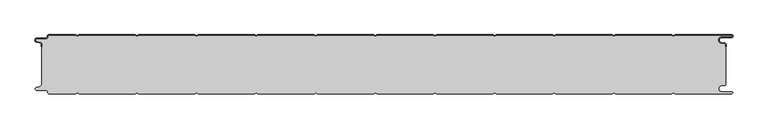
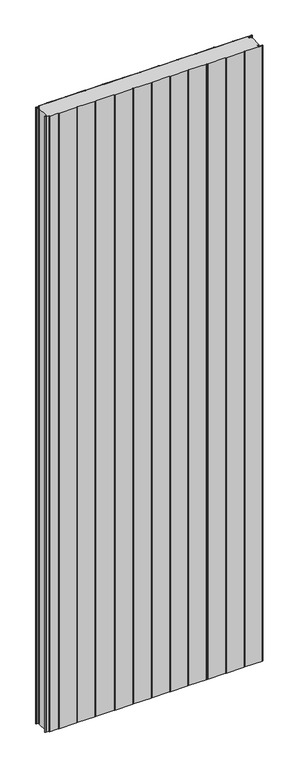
"""IFC4 building model written with IfcOpenShell, lengths in millimetres: plate geometry, PM1_Curtain-Panel_Perfil-Frigorífico : ACH_PM1_Panel-Acústico-Sectorización_100M."""

from ifc_helpers import new_model, si_unit, point, frame, frame_2d, origin, origin_with_axes, place, context, project, spatial, polyline, circle_curve, trimmed, segment, composite_curve, outline, extrude, source, transform, mapped, element, save
from ifc_brep_helpers import plane_surface, cylinder_surface, revolved_surface, advanced_brep


def plate_521b614f(model_context):
    return source(origin(), model_context, "Body", "SolidModel", [
        advanced_brep(
        [(-575.0, -15.878557, 3500.0), (-575.0, -20.0, 3500.0), (-574.2, -20.0, 3500.0), (-574.2, -15.878557, 3500.0), (-576.370137, -13.1503208, 3500.0), (-582.529863, -11.728236, 3500.0), (-581.9, -6.2, 3500.0), (-566.4, -6.2, 3500.0), (-563.6, -3.4, 3500.0), (-563.6, -2.0, 3500.0), (-562.4, -0.8, 3500.0), (-517.3143588, -0.8, 3500.0), (-514.4, -2.482606, 3500.0), (-511.4856412, -0.8, 3500.0), (-417.3143588, -0.8, 3500.0), (-414.4, -2.482606, 3500.0), (-411.4856412, -0.8, 3500.0), (-317.3143588, -0.8, 3500.0), (-314.4, -2.482606, 3500.0), (-311.4856412, -0.8, 3500.0), (-217.3143588, -0.8, 3500.0), (-214.4, -2.482606, 3500.0), (-211.4856412, -0.8, 3500.0), (-117.3143588, -0.8, 3500.0), (-114.4, -2.482606, 3500.0), (-111.4856412, -0.8, 3500.0), (-17.3143588, -0.8, 3500.0), (-14.4, -2.482606, 3500.0), (-11.4856412, -0.8, 3500.0), (82.6856412, -0.8, 3500.0), (85.6, -2.482606, 3500.0), (88.5143588, -0.8, 3500.0), (182.6856412, -0.8, 3500.0), (185.6, -2.482606, 3500.0), (188.5143588, -0.8, 3500.0), (282.6856412, -0.8, 3500.0), (285.6, -2.482606, 3500.0), (288.5143588, -0.8, 3500.0), (382.6856412, -0.8, 3500.0), (385.6, -2.482606, 3500.0), (388.5143588, -0.8, 3500.0), (482.6856412, -0.8, 3500.0), (485.6, -2.482606, 3500.0), (488.5143588, -0.8, 3500.0), (583.1, -0.8, 3500.0), (583.1, -4.2, 3500.0), (566.1, -4.2, 3500.0), (565.2664884, -13.7270771, 3500.0), (571.7125669, -14.8636953, 3500.0), (573.2, -16.6363492, 3500.0), (573.2, -20.0, 3500.0), (574.0, -20.0, 3500.0), (574.0, -16.6363492, 3500.0), (571.8514855, -14.0758491, 3500.0), (565.405407, -12.939231, 3500.0), (566.1, -5.0, 3500.0), (583.1, -5.0, 3500.0), (585.6, -2.5, 3500.0), (583.1, 0.0, 3500.0), (488.2999995, 0.0, 3500.0), (485.6, -1.5588455, 3500.0), (482.9000005, 0.0, 3500.0), (388.2999995, 0.0, 3500.0), (385.6, -1.5588455, 3500.0), (382.9000005, 0.0, 3500.0), (288.2999995, 0.0, 3500.0), (285.6, -1.5588455, 3500.0), (282.9000005, 0.0, 3500.0), (188.2999995, 0.0, 3500.0), (185.6, -1.5588455, 3500.0), (182.9000005, 0.0, 3500.0), (88.2999995, 0.0, 3500.0), (85.6, -1.5588455, 3500.0), (82.9000005, 0.0, 3500.0), (-11.7000005, 0.0, 3500.0), (-14.4, -1.5588455, 3500.0), (-17.0999995, 0.0, 3500.0), (-111.7000005, 0.0, 3500.0), (-114.4, -1.5588455, 3500.0), (-117.0999995, 0.0, 3500.0), (-211.7000005, 0.0, 3500.0), (-214.4, -1.5588455, 3500.0), (-217.0999995, 0.0, 3500.0), (-311.7000005, 0.0, 3500.0), (-314.4, -1.5588455, 3500.0), (-317.0999995, 0.0, 3500.0), (-411.7000005, 0.0, 3500.0), (-414.4, -1.5588455, 3500.0), (-417.0999995, 0.0, 3500.0), (-511.7000005, 0.0, 3500.0), (-514.4, -1.5588455, 3500.0), (-517.0999995, 0.0, 3500.0), (-562.4, 0.0, 3500.0), (-564.4, -2.0, 3500.0), (-564.4, -3.4, 3500.0), (-566.4, -5.4, 3500.0), (-581.9, -5.4, 3500.0), (-582.7098239, -12.5077322, 3500.0), (-576.5500979, -13.929817, 3500.0), (-575.0, -15.878557, 0.0), (-576.5500978, -13.9298169, 0.0), (-582.7098239, -12.507732, 0.0), (-581.9, -5.4, 0.0), (-566.4, -5.4, 0.0), (-564.4, -3.4, 0.0), (-564.4, -2.0, 0.0), (-562.4, 0.0, 0.0), (-517.0999995, 0.0, 0.0), (-514.4, -1.5588455, 0.0), (-511.7000005, 0.0, 0.0), (-417.0999995, 0.0, 0.0), (-414.4, -1.5588455, 0.0), (-411.7000005, 0.0, 0.0), (-317.0999995, 0.0, 0.0), (-314.4, -1.5588455, 0.0), (-311.7000005, 0.0, 0.0), (-217.0999995, 0.0, 0.0), (-214.4, -1.5588455, 0.0), (-211.7000005, 0.0, 0.0), (-117.0999995, 0.0, 0.0), (-114.4, -1.5588455, 0.0), (-111.7000005, 0.0, 0.0), (-17.0999995, 0.0, 0.0), (-14.4, -1.5588455, 0.0), (-11.7000005, 0.0, 0.0), (82.9000005, 0.0, 0.0), (85.6, -1.5588455, 0.0), (88.2999995, 0.0, 0.0), (182.9000005, 0.0, 0.0), (185.6, -1.5588455, 0.0), (188.2999995, 0.0, 0.0), (282.9000005, 0.0, 0.0), (285.6, -1.5588455, 0.0), (288.2999995, 0.0, 0.0), (382.9000005, 0.0, 0.0), (385.6, -1.5588455, 0.0), (388.2999995, 0.0, 0.0), (482.9000005, 0.0, 0.0), (485.6, -1.5588455, 0.0), (488.2999995, 0.0, 0.0), (583.1, 0.0, 0.0), (585.6, -2.5, 0.0), (583.1, -5.0, 0.0), (566.1, -5.0, 0.0), (565.405407, -12.939231, 0.0), (571.8514855, -14.0758491, 0.0), (574.0, -16.6363492, 0.0), (574.0, -20.0, 0.0), (573.2, -20.0, 0.0), (573.2, -16.6363492, 0.0), (571.7125669, -14.8636953, 0.0), (565.2664884, -13.7270772, 0.0), (566.1, -4.2, 0.0), (583.1, -4.2, 0.0), (583.1, -0.8, 0.0), (488.5143588, -0.8, 0.0), (485.6, -2.482606, 0.0), (482.6856412, -0.8, 0.0), (388.5143588, -0.8, 0.0), (385.6, -2.482606, 0.0), (382.6856412, -0.8, 0.0), (288.5143588, -0.8, 0.0), (285.6, -2.482606, 0.0), (282.6856412, -0.8, 0.0), (188.5143588, -0.8, 0.0), (185.6, -2.482606, 0.0), (182.6856412, -0.8, 0.0), (88.5143588, -0.8, 0.0), (85.6, -2.482606, 0.0), (82.6856412, -0.8, 0.0), (-11.4856412, -0.8, 0.0), (-14.4, -2.482606, 0.0), (-17.3143588, -0.8, 0.0), (-111.4856412, -0.8, 0.0), (-114.4, -2.482606, 0.0), (-117.3143588, -0.8, 0.0), (-211.4856412, -0.8, 0.0), (-214.4, -2.482606, 0.0), (-217.3143588, -0.8, 0.0), (-311.4856412, -0.8, 0.0), (-314.4, -2.482606, 0.0), (-317.3143588, -0.8, 0.0), (-411.4856412, -0.8, 0.0), (-414.4, -2.482606, 0.0), (-417.3143588, -0.8, 0.0), (-511.4856412, -0.8, 0.0), (-514.4, -2.482606, 0.0), (-517.3143588, -0.8, 0.0), (-562.4, -0.8, 0.0), (-563.6, -2.0, 0.0), (-563.6, -3.4, 0.0), (-566.4, -6.2, 0.0), (-581.9, -6.2, 0.0), (-582.529863, -11.7282362, 0.0), (-576.370137, -13.150321, 0.0), (-574.2, -15.878557, 0.0), (-574.2, -20.0, 0.0), (-575.0, -20.0, 0.0)],
        [
            (0, 1),
            (1, 2),
            (2, 3),
            (3, 4, circle_curve(frame((-577.0, -15.878557, 3500.0), z_axis=(0.0, 0.0, 1.0), x_axis=(1.0, 0.0, 0.0)), 2.8)),
            (4, 5),
            (5, 6, circle_curve(frame((-581.9, -9.0, 3500.0), z_axis=(0.0, 0.0, -1.0), x_axis=(1.0, 0.0, 0.0)), 2.8)),
            (6, 7),
            (7, 8, circle_curve(frame((-566.4, -3.4, 3500.0), z_axis=(0.0, 0.0, 1.0), x_axis=(1.0, 0.0, 0.0)), 2.8)),
            (8, 9),
            (9, 10, circle_curve(frame((-562.4, -2.0, 3500.0), z_axis=(0.0, 0.0, -1.0), x_axis=(1.0, 0.0, 0.0)), 1.2)),
            (10, 11),
            (11, 12),
            (12, 13),
            (13, 14),
            (14, 15),
            (15, 16),
            (16, 17),
            (17, 18),
            (18, 19),
            (19, 20),
            (20, 21),
            (21, 22),
            (22, 23),
            (23, 24),
            (24, 25),
            (25, 26),
            (26, 27),
            (27, 28),
            (28, 29),
            (29, 30),
            (30, 31),
            (31, 32),
            (32, 33),
            (33, 34),
            (34, 35),
            (35, 36),
            (36, 37),
            (37, 38),
            (38, 39),
            (39, 40),
            (40, 41),
            (41, 42),
            (42, 43),
            (43, 44),
            (44, 45, circle_curve(frame((583.1, -2.5, 3500.0), z_axis=(0.0, 0.0, -1.0), x_axis=(1.0, 0.0, 0.0)), 1.7)),
            (45, 46),
            (46, 47, circle_curve(frame((566.1, -9.0, 3500.0), z_axis=(0.0, 0.0, 1.0), x_axis=(1.0, 0.0, 0.0)), 4.8)),
            (47, 48),
            (48, 49, circle_curve(frame((571.4, -16.6363492, 3500.0), z_axis=(0.0, 0.0, -1.0), x_axis=(1.0, 0.0, 0.0)), 1.8)),
            (49, 50),
            (50, 51),
            (51, 52),
            (52, 53, circle_curve(frame((571.4, -16.6363492, 3500.0), z_axis=(0.0, 0.0, 1.0), x_axis=(1.0, 0.0, 0.0)), 2.6)),
            (53, 54),
            (54, 55, circle_curve(frame((566.1, -9.0, 3500.0), z_axis=(0.0, 0.0, -1.0), x_axis=(1.0, 0.0, 0.0)), 4.0)),
            (55, 56),
            (56, 57, circle_curve(frame((583.1, -2.5, 3500.0), z_axis=(0.0, 0.0, 1.0), x_axis=(1.0, 0.0, 0.0)), 2.5)),
            (57, 58, circle_curve(frame((583.1, -2.5, 3500.0), z_axis=(0.0, 0.0, 1.0), x_axis=(1.0, 0.0, 0.0)), 2.5)),
            (58, 59),
            (59, 60),
            (60, 61),
            (61, 62),
            (62, 63),
            (63, 64),
            (64, 65),
            (65, 66),
            (66, 67),
            (67, 68),
            (68, 69),
            (69, 70),
            (70, 71),
            (71, 72),
            (72, 73),
            (73, 74),
            (74, 75),
            (75, 76),
            (76, 77),
            (77, 78),
            (78, 79),
            (79, 80),
            (80, 81),
            (81, 82),
            (82, 83),
            (83, 84),
            (84, 85),
            (85, 86),
            (86, 87),
            (87, 88),
            (88, 89),
            (89, 90),
            (90, 91),
            (91, 92),
            (92, 93, circle_curve(frame((-562.4, -2.0, 3500.0), z_axis=(0.0, 0.0, 1.0), x_axis=(1.0, 0.0, 0.0)), 2.0)),
            (93, 94),
            (94, 95, circle_curve(frame((-566.4, -3.4, 3500.0), z_axis=(0.0, 0.0, -1.0), x_axis=(1.0, 0.0, 0.0)), 2.0)),
            (95, 96),
            (96, 97, circle_curve(frame((-581.9, -9.0, 3500.0), z_axis=(0.0, 0.0, 1.0), x_axis=(1.0, 0.0, 0.0)), 3.6)),
            (97, 98),
            (98, 0, circle_curve(frame((-577.0, -15.878557, 3500.0), z_axis=(0.0, 0.0, -1.0), x_axis=(1.0, 0.0, 0.0)), 2.0)),
            (99, 100, circle_curve(frame((-577.0, -15.878557, 0.0), z_axis=(0.0, 0.0, 1.0), x_axis=(1.0, 0.0, 0.0)), 2.0)),
            (100, 101),
            (101, 102, circle_curve(frame((-581.9, -9.0, 0.0), z_axis=(0.0, 0.0, -1.0), x_axis=(1.0, 0.0, 0.0)), 3.6)),
            (102, 103),
            (103, 104, circle_curve(frame((-566.4, -3.4, 0.0), z_axis=(0.0, 0.0, 1.0), x_axis=(1.0, 0.0, 0.0)), 2.0)),
            (104, 105),
            (105, 106, circle_curve(frame((-562.4, -2.0, 0.0), z_axis=(0.0, 0.0, -1.0), x_axis=(1.0, 0.0, 0.0)), 2.0)),
            (106, 107),
            (107, 108),
            (108, 109),
            (109, 110),
            (110, 111),
            (111, 112),
            (112, 113),
            (113, 114),
            (114, 115),
            (115, 116),
            (116, 117),
            (117, 118),
            (118, 119),
            (119, 120),
            (120, 121),
            (121, 122),
            (122, 123),
            (123, 124),
            (124, 125),
            (125, 126),
            (126, 127),
            (127, 128),
            (128, 129),
            (129, 130),
            (130, 131),
            (131, 132),
            (132, 133),
            (133, 134),
            (134, 135),
            (135, 136),
            (136, 137),
            (137, 138),
            (138, 139),
            (139, 140),
            (140, 141, circle_curve(frame((583.1, -2.5, 0.0), z_axis=(0.0, 0.0, -1.0), x_axis=(1.0, 0.0, 0.0)), 2.5)),
            (141, 142, circle_curve(frame((583.1, -2.5, 0.0), z_axis=(0.0, 0.0, -1.0), x_axis=(1.0, 0.0, 0.0)), 2.5)),
            (142, 143),
            (143, 144, circle_curve(frame((566.1, -9.0, 0.0), z_axis=(0.0, 0.0, 1.0), x_axis=(1.0, 0.0, 0.0)), 4.0)),
            (144, 145),
            (145, 146, circle_curve(frame((571.4, -16.6363492, 0.0), z_axis=(0.0, 0.0, -1.0), x_axis=(1.0, 0.0, 0.0)), 2.6)),
            (146, 147),
            (147, 148),
            (148, 149),
            (149, 150, circle_curve(frame((571.4, -16.6363492, 0.0), z_axis=(0.0, 0.0, 1.0), x_axis=(1.0, 0.0, 0.0)), 1.8)),
            (150, 151),
            (151, 152, circle_curve(frame((566.1, -9.0, 0.0), z_axis=(0.0, 0.0, -1.0), x_axis=(1.0, 0.0, 0.0)), 4.8)),
            (152, 153),
            (153, 154, circle_curve(frame((583.1, -2.5, 0.0), z_axis=(0.0, 0.0, 1.0), x_axis=(1.0, 0.0, 0.0)), 1.7)),
            (154, 155),
            (155, 156),
            (156, 157),
            (157, 158),
            (158, 159),
            (159, 160),
            (160, 161),
            (161, 162),
            (162, 163),
            (163, 164),
            (164, 165),
            (165, 166),
            (166, 167),
            (167, 168),
            (168, 169),
            (169, 170),
            (170, 171),
            (171, 172),
            (172, 173),
            (173, 174),
            (174, 175),
            (175, 176),
            (176, 177),
            (177, 178),
            (178, 179),
            (179, 180),
            (180, 181),
            (181, 182),
            (182, 183),
            (183, 184),
            (184, 185),
            (185, 186),
            (186, 187),
            (187, 188),
            (188, 189, circle_curve(frame((-562.4, -2.0, 0.0), z_axis=(0.0, 0.0, 1.0), x_axis=(1.0, 0.0, 0.0)), 1.2)),
            (189, 190),
            (190, 191, circle_curve(frame((-566.4, -3.4, 0.0), z_axis=(0.0, 0.0, -1.0), x_axis=(1.0, 0.0, 0.0)), 2.8)),
            (191, 192),
            (192, 193, circle_curve(frame((-581.9, -9.0, 0.0), z_axis=(0.0, 0.0, 1.0), x_axis=(1.0, 0.0, 0.0)), 2.8)),
            (193, 194),
            (194, 195, circle_curve(frame((-577.0, -15.878557, 0.0), z_axis=(0.0, 0.0, -1.0), x_axis=(1.0, 0.0, 0.0)), 2.8)),
            (195, 196),
            (196, 197),
            (197, 99),
            (0, 99),
            (197, 1),
            (196, 2),
            (195, 3),
            (194, 4),
            (193, 5),
            (192, 6),
            (191, 7),
            (190, 8),
            (189, 9),
            (188, 10),
            (187, 11),
            (186, 12),
            (185, 13),
            (184, 14),
            (183, 15),
            (182, 16),
            (181, 17),
            (180, 18),
            (179, 19),
            (178, 20),
            (177, 21),
            (176, 22),
            (175, 23),
            (174, 24),
            (173, 25),
            (172, 26),
            (171, 27),
            (170, 28),
            (169, 29),
            (168, 30),
            (167, 31),
            (166, 32),
            (165, 33),
            (164, 34),
            (163, 35),
            (162, 36),
            (161, 37),
            (160, 38),
            (159, 39),
            (158, 40),
            (157, 41),
            (156, 42),
            (155, 43),
            (154, 44),
            (153, 45),
            (152, 46),
            (151, 47),
            (150, 48),
            (149, 49),
            (148, 50),
            (147, 51),
            (146, 52),
            (145, 53),
            (144, 54),
            (143, 55),
            (142, 56),
            (140, 58),
            (139, 59),
            (138, 60),
            (137, 61),
            (136, 62),
            (135, 63),
            (134, 64),
            (133, 65),
            (132, 66),
            (131, 67),
            (130, 68),
            (129, 69),
            (128, 70),
            (127, 71),
            (126, 72),
            (125, 73),
            (124, 74),
            (123, 75),
            (122, 76),
            (121, 77),
            (120, 78),
            (119, 79),
            (118, 80),
            (117, 81),
            (116, 82),
            (115, 83),
            (114, 84),
            (113, 85),
            (112, 86),
            (111, 87),
            (110, 88),
            (109, 89),
            (108, 90),
            (107, 91),
            (106, 92),
            (105, 93),
            (104, 94),
            (103, 95),
            (102, 96),
            (101, 97),
            (100, 98),
        ],
        [
            plane_surface(frame((-575.0, 0.0, 3500.0), z_axis=(0.0, 0.0, 1.0), x_axis=(0.0, 1.0, 0.0))),
            plane_surface(frame((-575.0, 0.0, 0.0), z_axis=(0.0, 0.0, -1.0), x_axis=(0.0, 1.0, 0.0))),
            plane_surface(frame((-575.0, -15.878557, 3500.0), z_axis=(-1.0, 0.0, 0.0), x_axis=(0.0, 0.0, -1.0))),
            plane_surface(frame((-575.0, -20.0, 3500.0), z_axis=(0.0, -1.0, 0.0), x_axis=(0.0, 0.0, -1.0))),
            plane_surface(frame((-574.2, -20.0, 3500.0), z_axis=(1.0, 0.0, 0.0), x_axis=(0.0, 0.0, -1.0))),
            cylinder_surface(frame((-577.0, -15.878557, 3500.0), z_axis=(0.0, 0.0, 1.0), x_axis=(1.0, 0.0, 0.0)), 2.8),
            plane_surface(frame((-576.370137, -13.150321, 3500.0), z_axis=(0.22495108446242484, 0.9743700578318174, 0.0), x_axis=(0.0, 0.0, -1.0))),
            revolved_surface(polyline([(-579.1, -9.0, 0.0), (-579.1, -9.0, 3500.0)]), (-581.9, -9.0, 3500.0), (0.0, 0.0, -1.0)),
            plane_surface(frame((-581.9, -6.2, 3500.0), z_axis=(0.0, -1.0, 0.0), x_axis=(0.0, 0.0, -1.0))),
            cylinder_surface(frame((-566.4, -3.4, 3500.0), z_axis=(0.0, 0.0, 1.0), x_axis=(1.0, 0.0, 0.0)), 2.8),
            plane_surface(frame((-563.6, -3.4, 3500.0), z_axis=(1.0, 0.0, 0.0), x_axis=(0.0, 0.0, -1.0))),
            revolved_surface(polyline([(-561.1999999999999, -2.0, 0.0), (-561.1999999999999, -2.0, 3500.0)]), (-562.4, -2.0, 3500.0), (0.0, 0.0, -1.0)),
            plane_surface(frame((-562.4, -0.8, 3500.0), z_axis=(0.0, -1.0, 0.0), x_axis=(0.0, 0.0, -1.0))),
            plane_surface(frame((-517.3143588, -0.8, 3500.0), z_axis=(-0.5000000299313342, -0.8660253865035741, 0.0), x_axis=(0.0, 0.0, -1.0))),
            plane_surface(frame((-514.4, -2.482606, 3500.0), z_axis=(0.5000000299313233, -0.8660253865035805, 0.0), x_axis=(0.0, 0.0, -1.0))),
            plane_surface(frame((-511.4856412, -0.8, 3500.0), z_axis=(0.0, -1.0, 0.0), x_axis=(0.0, 0.0, -1.0))),
            plane_surface(frame((-417.3143588, -0.8, 3500.0), z_axis=(-0.5000000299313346, -0.8660253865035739, 0.0), x_axis=(0.0, 0.0, -1.0))),
            plane_surface(frame((-414.4, -2.482606, 3500.0), z_axis=(0.5000000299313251, -0.8660253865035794, 0.0), x_axis=(0.0, 0.0, -1.0))),
            plane_surface(frame((-411.4856412, -0.8, 3500.0), z_axis=(0.0, -1.0, 0.0), x_axis=(0.0, 0.0, -1.0))),
            plane_surface(frame((-317.3143588, -0.8, 3500.0), z_axis=(-0.5000000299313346, -0.866025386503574, 0.0), x_axis=(0.0, 0.0, -1.0))),
            plane_surface(frame((-314.4, -2.482606, 3500.0), z_axis=(0.5000000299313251, -0.8660253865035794, 0.0), x_axis=(0.0, 0.0, -1.0))),
            plane_surface(frame((-311.4856412, -0.8, 3500.0), z_axis=(0.0, -1.0, 0.0), x_axis=(0.0, 0.0, -1.0))),
            plane_surface(frame((-217.3143588, -0.8, 3500.0), z_axis=(-0.5000000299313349, -0.8660253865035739, 0.0), x_axis=(0.0, 0.0, -1.0))),
            plane_surface(frame((-214.4, -2.482606, 3500.0), z_axis=(0.5000000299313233, -0.8660253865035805, 0.0), x_axis=(0.0, 0.0, -1.0))),
            plane_surface(frame((-211.4856412, -0.8, 3500.0), z_axis=(0.0, -1.0, 0.0), x_axis=(0.0, 0.0, -1.0))),
            plane_surface(frame((-117.3143588, -0.8, 3500.0), z_axis=(-0.5000000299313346, -0.866025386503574, 0.0), x_axis=(0.0, 0.0, -1.0))),
            plane_surface(frame((-114.4, -2.482606, 3500.0), z_axis=(0.5000000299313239, -0.8660253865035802, 0.0), x_axis=(0.0, 0.0, -1.0))),
            plane_surface(frame((-111.4856412, -0.8, 3500.0), z_axis=(0.0, -1.0, 0.0), x_axis=(0.0, 0.0, -1.0))),
            plane_surface(frame((-17.3143588, -0.8, 3500.0), z_axis=(-0.5000000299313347, -0.8660253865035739, 0.0), x_axis=(0.0, 0.0, -1.0))),
            plane_surface(frame((-14.4, -2.482606, 3500.0), z_axis=(0.5000000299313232, -0.8660253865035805, 0.0), x_axis=(0.0, 0.0, -1.0))),
            plane_surface(frame((-11.4856412, -0.8, 3500.0), z_axis=(0.0, -1.0, 0.0), x_axis=(0.0, 0.0, -1.0))),
            plane_surface(frame((82.6856412, -0.8, 3500.0), z_axis=(-0.5000000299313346, -0.866025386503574, 0.0), x_axis=(0.0, 0.0, -1.0))),
            plane_surface(frame((85.6, -2.482606, 3500.0), z_axis=(0.5000000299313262, -0.8660253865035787, 0.0), x_axis=(0.0, 0.0, -1.0))),
            plane_surface(frame((88.5143588, -0.8, 3500.0), z_axis=(0.0, -1.0, 0.0), x_axis=(0.0, 0.0, -1.0))),
            plane_surface(frame((182.6856412, -0.8, 3500.0), z_axis=(-0.5000000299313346, -0.8660253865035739, 0.0), x_axis=(0.0, 0.0, -1.0))),
            plane_surface(frame((185.6, -2.482606, 3500.0), z_axis=(0.5000000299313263, -0.8660253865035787, 0.0), x_axis=(0.0, 0.0, -1.0))),
            plane_surface(frame((188.5143588, -0.8, 3500.0), z_axis=(0.0, -1.0, 0.0), x_axis=(0.0, 0.0, -1.0))),
            plane_surface(frame((282.6856412, -0.8, 3500.0), z_axis=(-0.5000000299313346, -0.8660253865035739, 0.0), x_axis=(0.0, 0.0, -1.0))),
            plane_surface(frame((285.6, -2.482606, 3500.0), z_axis=(0.5000000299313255, -0.8660253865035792, 0.0), x_axis=(0.0, 0.0, -1.0))),
            plane_surface(frame((288.5143588, -0.8, 3500.0), z_axis=(0.0, -1.0, 0.0), x_axis=(0.0, 0.0, -1.0))),
            plane_surface(frame((382.6856412, -0.8, 3500.0), z_axis=(-0.5000000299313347, -0.8660253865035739, 0.0), x_axis=(0.0, 0.0, -1.0))),
            plane_surface(frame((385.6, -2.482606, 3500.0), z_axis=(0.5000000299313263, -0.8660253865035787, 0.0), x_axis=(0.0, 0.0, -1.0))),
            plane_surface(frame((388.5143588, -0.8, 3500.0), z_axis=(0.0, -1.0, 0.0), x_axis=(0.0, 0.0, -1.0))),
            plane_surface(frame((482.6856412, -0.8, 3500.0), z_axis=(-0.5000000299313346, -0.866025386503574, 0.0), x_axis=(0.0, 0.0, -1.0))),
            plane_surface(frame((485.6, -2.482606, 3500.0), z_axis=(0.5000000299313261, -0.8660253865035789, 0.0), x_axis=(0.0, 0.0, -1.0))),
            plane_surface(frame((535.6, -0.8, 3500.0), z_axis=(0.0, -1.0, 0.0), x_axis=(0.0, 0.0, -1.0))),
            revolved_surface(polyline([(584.8000000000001, -2.5, 0.0), (584.8000000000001, -2.5, 3500.0)]), (583.1, -2.5, 3500.0), (0.0, 0.0, -1.0)),
            plane_surface(frame((583.1, -4.2, 3500.0), z_axis=(0.0, 1.0, 0.0), x_axis=(0.0, 0.0, -1.0))),
            cylinder_surface(frame((566.1, -9.0, 3500.0), z_axis=(0.0, 0.0, 1.0), x_axis=(1.0, 0.0, 0.0)), 4.8),
            plane_surface(frame((565.2664884, -13.7270772, 3500.0), z_axis=(-0.17364825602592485, -0.9848077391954, 0.0), x_axis=(0.0, 0.0, -1.0))),
            revolved_surface(polyline([(573.1999999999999, -16.6363492, 0.0), (573.1999999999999, -16.6363492, 3500.0)]), (571.4, -16.6363492, 3500.0), (0.0, 0.0, -1.0)),
            plane_surface(frame((573.2, -16.6363492, 3500.0), z_axis=(-1.0, 0.0, 0.0), x_axis=(0.0, 0.0, -1.0))),
            plane_surface(frame((573.2, -20.0, 3500.0), z_axis=(0.0, -1.0, 0.0), x_axis=(0.0, 0.0, -1.0))),
            plane_surface(frame((574.0, -20.0, 3500.0), z_axis=(1.0, 0.0, 0.0), x_axis=(0.0, 0.0, -1.0))),
            cylinder_surface(frame((571.4, -16.6363492, 3500.0), z_axis=(0.0, 0.0, 1.0), x_axis=(1.0, 0.0, 0.0)), 2.6),
            plane_surface(frame((571.8514855, -14.0758491, 3500.0), z_axis=(0.1736482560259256, 0.9848077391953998, 0.0), x_axis=(0.0, 0.0, -1.0))),
            revolved_surface(polyline([(570.1, -9.0, 0.0), (570.1, -9.0, 3500.0)]), (566.1, -9.0, 3500.0), (0.0, 0.0, -1.0)),
            plane_surface(frame((566.1, -5.0, 3500.0), z_axis=(0.0, -1.0, 0.0), x_axis=(0.0, 0.0, -1.0))),
            cylinder_surface(frame((583.1, -2.5, 3500.0), z_axis=(0.0, 0.0, 1.0), x_axis=(1.0, 0.0, 0.0)), 2.5),
            plane_surface(frame((535.6, 0.0, 3500.0), z_axis=(0.0, 1.0, 0.0), x_axis=(0.0, 0.0, -1.0))),
            plane_surface(frame((488.2999995, 0.0, 3500.0), z_axis=(-0.5000000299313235, 0.8660253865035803, 0.0), x_axis=(0.0, 0.0, -1.0))),
            plane_surface(frame((485.6, -1.5588455, 3500.0), z_axis=(0.5000000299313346, 0.8660253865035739, 0.0), x_axis=(0.0, 0.0, -1.0))),
            plane_surface(frame((482.9000005, 0.0, 3500.0), z_axis=(0.0, 1.0, 0.0), x_axis=(0.0, 0.0, -1.0))),
            plane_surface(frame((388.2999995, 0.0, 3500.0), z_axis=(-0.5000000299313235, 0.8660253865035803, 0.0), x_axis=(0.0, 0.0, -1.0))),
            plane_surface(frame((385.6, -1.5588455, 3500.0), z_axis=(0.5000000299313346, 0.8660253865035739, 0.0), x_axis=(0.0, 0.0, -1.0))),
            plane_surface(frame((382.9000005, 0.0, 3500.0), z_axis=(0.0, 1.0, 0.0), x_axis=(0.0, 0.0, -1.0))),
            plane_surface(frame((288.2999995, 0.0, 3500.0), z_axis=(-0.5000000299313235, 0.8660253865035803, 0.0), x_axis=(0.0, 0.0, -1.0))),
            plane_surface(frame((285.6, -1.5588455, 3500.0), z_axis=(0.5000000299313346, 0.8660253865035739, 0.0), x_axis=(0.0, 0.0, -1.0))),
            plane_surface(frame((282.9000005, 0.0, 3500.0), z_axis=(0.0, 1.0, 0.0), x_axis=(0.0, 0.0, -1.0))),
            plane_surface(frame((188.2999995, 0.0, 3500.0), z_axis=(-0.5000000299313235, 0.8660253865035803, 0.0), x_axis=(0.0, 0.0, -1.0))),
            plane_surface(frame((185.6, -1.5588455, 3500.0), z_axis=(0.5000000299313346, 0.8660253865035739, 0.0), x_axis=(0.0, 0.0, -1.0))),
            plane_surface(frame((182.9000005, 0.0, 3500.0), z_axis=(0.0, 1.0, 0.0), x_axis=(0.0, 0.0, -1.0))),
            plane_surface(frame((88.2999995, 0.0, 3500.0), z_axis=(-0.5000000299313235, 0.8660253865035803, 0.0), x_axis=(0.0, 0.0, -1.0))),
            plane_surface(frame((85.6, -1.5588455, 3500.0), z_axis=(0.5000000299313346, 0.8660253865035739, 0.0), x_axis=(0.0, 0.0, -1.0))),
            plane_surface(frame((82.9000005, 0.0, 3500.0), z_axis=(0.0, 1.0, 0.0), x_axis=(0.0, 0.0, -1.0))),
            plane_surface(frame((-11.7000005, 0.0, 3500.0), z_axis=(-0.5000000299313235, 0.8660253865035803, 0.0), x_axis=(0.0, 0.0, -1.0))),
            plane_surface(frame((-14.4, -1.5588455, 3500.0), z_axis=(0.5000000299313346, 0.8660253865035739, 0.0), x_axis=(0.0, 0.0, -1.0))),
            plane_surface(frame((-17.0999995, 0.0, 3500.0), z_axis=(0.0, 1.0, 0.0), x_axis=(0.0, 0.0, -1.0))),
            plane_surface(frame((-111.7000005, 0.0, 3500.0), z_axis=(-0.5000000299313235, 0.8660253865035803, 0.0), x_axis=(0.0, 0.0, -1.0))),
            plane_surface(frame((-114.4, -1.5588455, 3500.0), z_axis=(0.5000000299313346, 0.8660253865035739, 0.0), x_axis=(0.0, 0.0, -1.0))),
            plane_surface(frame((-117.0999995, 0.0, 3500.0), z_axis=(0.0, 1.0, 0.0), x_axis=(0.0, 0.0, -1.0))),
            plane_surface(frame((-211.7000005, 0.0, 3500.0), z_axis=(-0.5000000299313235, 0.8660253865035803, 0.0), x_axis=(0.0, 0.0, -1.0))),
            plane_surface(frame((-214.4, -1.5588455, 3500.0), z_axis=(0.5000000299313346, 0.8660253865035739, 0.0), x_axis=(0.0, 0.0, -1.0))),
            plane_surface(frame((-217.0999995, 0.0, 3500.0), z_axis=(0.0, 1.0, 0.0), x_axis=(0.0, 0.0, -1.0))),
            plane_surface(frame((-311.7000005, 0.0, 3500.0), z_axis=(-0.5000000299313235, 0.8660253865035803, 0.0), x_axis=(0.0, 0.0, -1.0))),
            plane_surface(frame((-314.4, -1.5588455, 3500.0), z_axis=(0.5000000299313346, 0.8660253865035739, 0.0), x_axis=(0.0, 0.0, -1.0))),
            plane_surface(frame((-317.0999995, 0.0, 3500.0), z_axis=(0.0, 1.0, 0.0), x_axis=(0.0, 0.0, -1.0))),
            plane_surface(frame((-411.7000005, 0.0, 3500.0), z_axis=(-0.5000000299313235, 0.8660253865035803, 0.0), x_axis=(0.0, 0.0, -1.0))),
            plane_surface(frame((-414.4, -1.5588455, 3500.0), z_axis=(0.5000000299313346, 0.8660253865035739, 0.0), x_axis=(0.0, 0.0, -1.0))),
            plane_surface(frame((-417.0999995, 0.0, 3500.0), z_axis=(0.0, 1.0, 0.0), x_axis=(0.0, 0.0, -1.0))),
            plane_surface(frame((-511.7000005, 0.0, 3500.0), z_axis=(-0.5000000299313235, 0.8660253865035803, 0.0), x_axis=(0.0, 0.0, -1.0))),
            plane_surface(frame((-514.4, -1.5588455, 3500.0), z_axis=(0.5000000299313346, 0.8660253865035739, 0.0), x_axis=(0.0, 0.0, -1.0))),
            plane_surface(frame((-517.0999995, 0.0, 3500.0), z_axis=(0.0, 1.0, 0.0), x_axis=(0.0, 0.0, -1.0))),
            cylinder_surface(frame((-562.4, -2.0, 3500.0), z_axis=(0.0, 0.0, 1.0), x_axis=(1.0, 0.0, 0.0)), 2.0),
            plane_surface(frame((-564.4, -2.0, 3500.0), z_axis=(-1.0, 0.0, 0.0), x_axis=(0.0, 0.0, -1.0))),
            revolved_surface(polyline([(-564.4, -3.4, 0.0), (-564.4, -3.4, 3500.0)]), (-566.4, -3.4, 3500.0), (0.0, 0.0, -1.0)),
            plane_surface(frame((-566.4, -5.4, 3500.0), z_axis=(0.0, 1.0, 0.0), x_axis=(0.0, 0.0, -1.0))),
            cylinder_surface(frame((-581.9, -9.0, 3500.0), z_axis=(0.0, 0.0, 1.0), x_axis=(1.0, 0.0, 0.0)), 3.6),
            plane_surface(frame((-582.7098239, -12.507732, 3500.0), z_axis=(-0.22495108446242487, -0.9743700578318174, 0.0), x_axis=(0.0, 0.0, -1.0))),
            revolved_surface(polyline([(-575.0, -15.878557, 0.0), (-575.0, -15.878557, 3500.0)]), (-577.0, -15.878557, 3500.0), (0.0, 0.0, -1.0)),
        ],
        [
            (0, [[1, 2, 3, 4, 5, 6, 7, 8, 9, 10, 11, 12, 13, 14, 15, 16, 17, 18, 19, 20, 21, 22, 23, 24, 25, 26, 27, 28, 29, 30, 31, 32, 33, 34, 35, 36, 37, 38, 39, 40, 41, 42, 43, 44, 45, 46, 47, 48, 49, 50, 51, 52, 53, 54, 55, 56, 57, 58, 59, 60, 61, 62, 63, 64, 65, 66, 67, 68, 69, 70, 71, 72, 73, 74, 75, 76, 77, 78, 79, 80, 81, 82, 83, 84, 85, 86, 87, 88, 89, 90, 91, 92, 93, 94, 95, 96, 97, 98, 99]]),
            (1, [[100, 101, 102, 103, 104, 105, 106, 107, 108, 109, 110, 111, 112, 113, 114, 115, 116, 117, 118, 119, 120, 121, 122, 123, 124, 125, 126, 127, 128, 129, 130, 131, 132, 133, 134, 135, 136, 137, 138, 139, 140, 141, 142, 143, 144, 145, 146, 147, 148, 149, 150, 151, 152, 153, 154, 155, 156, 157, 158, 159, 160, 161, 162, 163, 164, 165, 166, 167, 168, 169, 170, 171, 172, 173, 174, 175, 176, 177, 178, 179, 180, 181, 182, 183, 184, 185, 186, 187, 188, 189, 190, 191, 192, 193, 194, 195, 196, 197, 198]]),
            (2, [[-1, 199, -198, 200]]),
            (3, [[-2, -200, -197, 201]]),
            (4, [[-3, -201, -196, 202]]),
            (5, [[-4, -202, -195, 203]]),
            (6, [[-5, -203, -194, 204]]),
            (7, [[-6, -204, -193, 205]]),
            (8, [[-7, -205, -192, 206]]),
            (9, [[-8, -206, -191, 207]]),
            (10, [[-9, -207, -190, 208]]),
            (11, [[-10, -208, -189, 209]]),
            (12, [[-11, -209, -188, 210]]),
            (13, [[-12, -210, -187, 211]]),
            (14, [[-13, -211, -186, 212]]),
            (15, [[-14, -212, -185, 213]]),
            (16, [[-15, -213, -184, 214]]),
            (17, [[-16, -214, -183, 215]]),
            (18, [[-17, -215, -182, 216]]),
            (19, [[-18, -216, -181, 217]]),
            (20, [[-19, -217, -180, 218]]),
            (21, [[-20, -218, -179, 219]]),
            (22, [[-21, -219, -178, 220]]),
            (23, [[-22, -220, -177, 221]]),
            (24, [[-23, -221, -176, 222]]),
            (25, [[-24, -222, -175, 223]]),
            (26, [[-25, -223, -174, 224]]),
            (27, [[-26, -224, -173, 225]]),
            (28, [[-27, -225, -172, 226]]),
            (29, [[-28, -226, -171, 227]]),
            (30, [[-29, -227, -170, 228]]),
            (31, [[-30, -228, -169, 229]]),
            (32, [[-31, -229, -168, 230]]),
            (33, [[-32, -230, -167, 231]]),
            (34, [[-33, -231, -166, 232]]),
            (35, [[-34, -232, -165, 233]]),
            (36, [[-35, -233, -164, 234]]),
            (37, [[-36, -234, -163, 235]]),
            (38, [[-37, -235, -162, 236]]),
            (39, [[-38, -236, -161, 237]]),
            (40, [[-39, -237, -160, 238]]),
            (41, [[-40, -238, -159, 239]]),
            (42, [[-41, -239, -158, 240]]),
            (43, [[-42, -240, -157, 241]]),
            (44, [[-43, -241, -156, 242]]),
            (45, [[-44, -242, -155, 243]]),
            (46, [[-45, -243, -154, 244]]),
            (47, [[-46, -244, -153, 245]]),
            (48, [[-47, -245, -152, 246]]),
            (49, [[-48, -246, -151, 247]]),
            (50, [[-49, -247, -150, 248]]),
            (51, [[-50, -248, -149, 249]]),
            (52, [[-51, -249, -148, 250]]),
            (53, [[-52, -250, -147, 251]]),
            (54, [[-53, -251, -146, 252]]),
            (55, [[-54, -252, -145, 253]]),
            (56, [[-55, -253, -144, 254]]),
            (57, [[-56, -254, -143, 255]]),
            (58, [[-255, -142, -141, 256, -58, -57]]),
            (59, [[-59, -256, -140, 257]]),
            (60, [[-60, -257, -139, 258]]),
            (61, [[-61, -258, -138, 259]]),
            (62, [[-62, -259, -137, 260]]),
            (63, [[-63, -260, -136, 261]]),
            (64, [[-64, -261, -135, 262]]),
            (65, [[-65, -262, -134, 263]]),
            (66, [[-66, -263, -133, 264]]),
            (67, [[-67, -264, -132, 265]]),
            (68, [[-68, -265, -131, 266]]),
            (69, [[-69, -266, -130, 267]]),
            (70, [[-70, -267, -129, 268]]),
            (71, [[-71, -268, -128, 269]]),
            (72, [[-72, -269, -127, 270]]),
            (73, [[-73, -270, -126, 271]]),
            (74, [[-74, -271, -125, 272]]),
            (75, [[-75, -272, -124, 273]]),
            (76, [[-76, -273, -123, 274]]),
            (77, [[-77, -274, -122, 275]]),
            (78, [[-78, -275, -121, 276]]),
            (79, [[-79, -276, -120, 277]]),
            (80, [[-80, -277, -119, 278]]),
            (81, [[-81, -278, -118, 279]]),
            (82, [[-82, -279, -117, 280]]),
            (83, [[-83, -280, -116, 281]]),
            (84, [[-84, -281, -115, 282]]),
            (85, [[-85, -282, -114, 283]]),
            (86, [[-86, -283, -113, 284]]),
            (87, [[-87, -284, -112, 285]]),
            (88, [[-88, -285, -111, 286]]),
            (89, [[-89, -286, -110, 287]]),
            (90, [[-90, -287, -109, 288]]),
            (91, [[-91, -288, -108, 289]]),
            (92, [[-92, -289, -107, 290]]),
            (93, [[-93, -290, -106, 291]]),
            (94, [[-94, -291, -105, 292]]),
            (95, [[-95, -292, -104, 293]]),
            (96, [[-96, -293, -103, 294]]),
            (97, [[-97, -294, -102, 295]]),
            (98, [[-98, -295, -101, 296]]),
            (99, [[-99, -296, -100, -199]]),
        ],
    ),
        extrude(outline(composite_curve([segment(polyline([(-574.2, -84.1214426), (-574.2, -15.8785573)]), True, "CONTINUOUS"), segment(trimmed(circle_curve(frame_2d((-577.0, -15.8785573)), 2.8), [point((-574.2, -15.8785573))], [point((-576.370137, -13.1503212))], True, "CARTESIAN"), True, "CONTINUOUS"), segment(polyline([(-576.370137, -13.1503212), (-582.5298631, -11.7282362)]), True, "CONTINUOUS"), segment(trimmed(circle_curve(frame_2d((-581.9, -9.0)), 2.8), [point((-582.5298631, -11.7282362))], [point((-581.9, -6.2))], False, "CARTESIAN"), True, "CONTINUOUS"), segment(polyline([(-581.9, -6.2), (-566.4000001, -6.2)]), True, "CONTINUOUS"), segment(trimmed(circle_curve(frame_2d((-566.4000001, -3.4)), 2.8), [point((-566.4000001, -6.2))], [point((-563.6000001, -3.4))], True, "CARTESIAN"), True, "CONTINUOUS"), segment(polyline([(-563.6000001, -3.4), (-563.6000001, -2.0)]), True, "CONTINUOUS"), segment(trimmed(circle_curve(frame_2d((-562.4000001, -2.0)), 1.2), [point((-563.6000001, -2.0))], [point((-562.4000001, -0.8))], False, "CARTESIAN"), True, "CONTINUOUS"), segment(polyline([(-562.4000001, -0.8), (-517.3143589, -0.8), (-514.4000001, -2.482606), (-511.4856412, -0.8), (-417.3143589, -0.8), (-414.4000001, -2.482606), (-411.4856412, -0.8), (-317.3143589, -0.8), (-314.4000001, -2.482606), (-311.4856412, -0.8), (-217.3143589, -0.8), (-214.4000001, -2.482606), (-211.4856412, -0.8), (-117.3143589, -0.8), (-114.4000001, -2.482606), (-111.4856412, -0.8), (-17.3143589, -0.8), (-14.4000001, -2.482606), (-11.4856412, -0.8), (82.6856411, -0.8), (85.5999999, -2.482606), (88.5143588, -0.8), (182.6856411, -0.8), (185.5999999, -2.482606), (188.5143588, -0.8), (282.6856411, -0.8), (285.5999999, -2.482606), (288.5143588, -0.8), (382.6856411, -0.8), (385.5999999, -2.482606), (388.5143588, -0.8), (482.6856411, -0.8), (485.6, -2.482606), (488.5143588, -0.8), (583.1, -0.8)]), True, "CONTINUOUS"), segment(trimmed(circle_curve(frame_2d((583.1, -2.5)), 1.7), [point((583.1, -0.8))], [point((583.1, -4.2))], False, "CARTESIAN"), True, "CONTINUOUS"), segment(polyline([(583.1, -4.2), (566.1, -4.2)]), True, "CONTINUOUS"), segment(trimmed(circle_curve(frame_2d((566.1, -9.0)), 4.8), [point((566.1, -4.2))], [point((565.2664883, -13.7270771))], True, "CARTESIAN"), True, "CONTINUOUS"), segment(polyline([(565.2664883, -13.7270771), (571.7125668, -14.8636953)]), True, "CONTINUOUS"), segment(trimmed(circle_curve(frame_2d((571.4, -16.6363492)), 1.8), [point((571.7125668, -14.8636953))], [point((573.2, -16.6363492))], False, "CARTESIAN"), True, "CONTINUOUS"), segment(polyline([(573.2, -16.6363492), (573.2, -83.3636508)]), True, "CONTINUOUS"), segment(trimmed(circle_curve(frame_2d((571.4, -83.3636508)), 1.8), [point((573.2, -83.3636508))], [point((571.7125668, -85.1363047))], False, "CARTESIAN"), True, "CONTINUOUS"), segment(polyline([(571.7125668, -85.1363047), (565.2664883, -86.2729229)]), True, "CONTINUOUS"), segment(trimmed(circle_curve(frame_2d((566.1, -91.0)), 4.8), [point((565.2664883, -86.2729229))], [point((566.1, -95.8))], True, "CARTESIAN"), True, "CONTINUOUS"), segment(polyline([(566.1, -95.8), (583.1, -95.8)]), True, "CONTINUOUS"), segment(trimmed(circle_curve(frame_2d((583.1, -97.5)), 1.7), [point((583.1, -95.8))], [point((583.1, -99.2))], False, "CARTESIAN"), True, "CONTINUOUS"), segment(polyline([(583.1, -99.2), (488.5143588, -99.2), (485.6, -97.517394), (482.6856411, -99.2), (388.5143588, -99.2), (385.5999999, -97.517394), (382.6856411, -99.2), (288.5143588, -99.2), (285.5999999, -97.517394), (282.6856411, -99.2), (188.5143588, -99.2), (185.5999999, -97.517394), (182.6856411, -99.2), (88.5143588, -99.2), (85.5999999, -97.517394), (82.6856411, -99.2), (-11.4856412, -99.2), (-14.4000001, -97.517394), (-17.3143589, -99.2), (-111.4856412, -99.2), (-114.4000001, -97.517394), (-117.3143589, -99.2), (-211.4856412, -99.2), (-214.4000001, -97.517394), (-217.3143589, -99.2), (-311.4856412, -99.2), (-314.4000001, -97.517394), (-317.3143589, -99.2), (-411.4856412, -99.2), (-414.4000001, -97.517394), (-417.3143589, -99.2), (-511.4856412, -99.2), (-514.4000001, -97.517394), (-517.3143589, -99.2), (-562.4000001, -99.2)]), True, "CONTINUOUS"), segment(trimmed(circle_curve(frame_2d((-562.4000001, -98.0)), 1.2), [point((-562.4000001, -99.2))], [point((-563.6000001, -98.0))], False, "CARTESIAN"), True, "CONTINUOUS"), segment(polyline([(-563.6000001, -98.0), (-563.6000001, -96.6)]), True, "CONTINUOUS"), segment(trimmed(circle_curve(frame_2d((-566.4000001, -96.6)), 2.8), [point((-563.6000001, -96.6))], [point((-566.4000001, -93.8))], True, "CARTESIAN"), True, "CONTINUOUS"), segment(polyline([(-566.4000001, -93.8), (-581.9, -93.8)]), True, "CONTINUOUS"), segment(trimmed(circle_curve(frame_2d((-581.9, -91.0)), 2.8), [point((-581.9, -93.8))], [point((-582.5298631, -88.2717638))], False, "CARTESIAN"), True, "CONTINUOUS"), segment(polyline([(-582.5298631, -88.2717638), (-576.370137, -86.8496788)]), True, "CONTINUOUS"), segment(trimmed(circle_curve(frame_2d((-577.0, -84.1214426)), 2.8), [point((-576.370137, -86.8496788))], [point((-574.2, -84.1214426))], True, "CARTESIAN"), True, "CONTINUOUS")], self_intersect=False)), origin_with_axes(), (0.0, 0.0, 1.0), 3500.0),
    ])


if __name__ == "__main__":
    model = new_model("IFC4")
    model_context = context("Model", 3, world=origin())
    ifc_project = project(units=[si_unit("LENGTHUNIT", "METRE", prefix="MILLI")], contexts=[model_context])
    site = spatial("IfcSite", under=ifc_project)
    building = spatial("IfcBuilding", under=site)
    placement = place(None, origin())
    plate_shape = plate_521b614f(model_context)
    element("IfcPlate", 1, ObjectType="PM1_Curtain-Panel_Perfil-Frigorífico : ACH_PM1_Panel-Acústico-Sectorización_100M", at=placement, inside=building, context=model_context, shape_type="MappedRepresentation", body=[
        mapped(plate_shape, transform((0.0, 0.0, 0.0), x_axis=(1.0, 0.0, 0.0), y_axis=(0.0, 1.0, 0.0), z_axis=(0.0, 0.0, 1.0))),
    ])
    save(model, "model.ifc")
